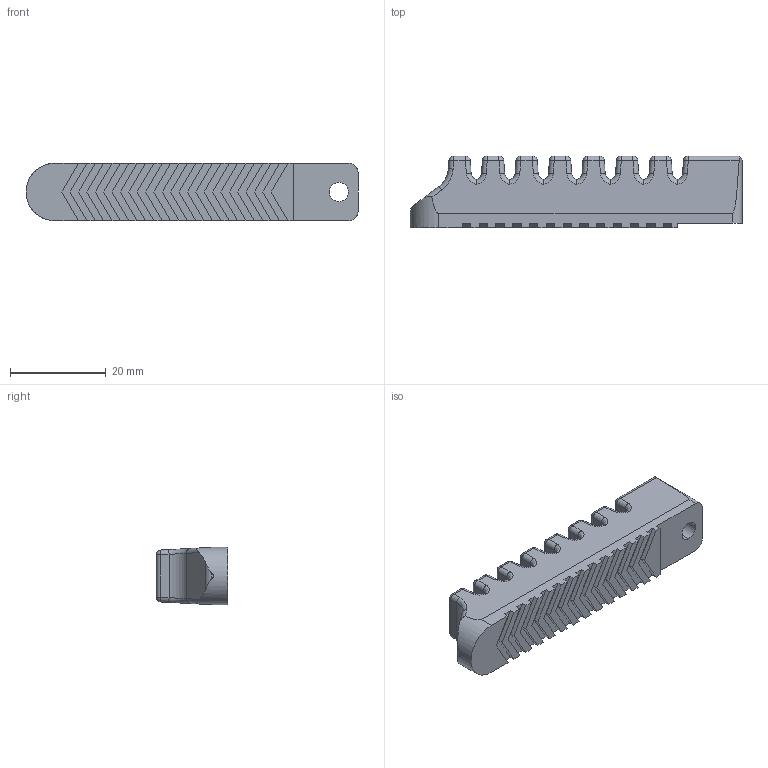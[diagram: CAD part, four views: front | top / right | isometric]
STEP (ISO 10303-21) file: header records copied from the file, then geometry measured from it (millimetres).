
FILE_DESCRIPTION (( 'STEP AP214' ), '1' );
FILE_NAME ('C8.STEP', '2019-12-04T08:18:07', ( '微软用户' ), ( '微软中国' ), 'SwSTEP 2.0', 'SolidWorks 2016', '' );
FILE_SCHEMA (( 'AUTOMOTIVE_DESIGN' ));
Length unit declared in the file: millimetre
Products named in the file (1): C8
Bounding box: 69.35 x 15 x 12 mm (x, y, z)
Volume: 9649.7 mm3; surface area: 4522.4 mm2
Topology: 1 solids, 1 shells, 256 faces, 626 edges, 372 vertices
Faces by surface type: plane 111, cylinder 85, sphere 30, bspline 30
Entity records: 12201 total; most frequent: CARTESIAN_POINT 3634, ORIENTED_EDGE 1252, DIRECTION 1118, EDGE_CURVE 626, LINE 406, VECTOR 406, VERTEX_POINT 372, AXIS2_PLACEMENT_3D 356
